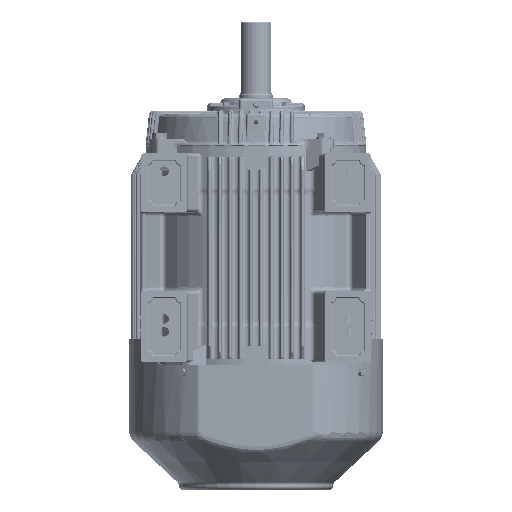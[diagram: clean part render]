
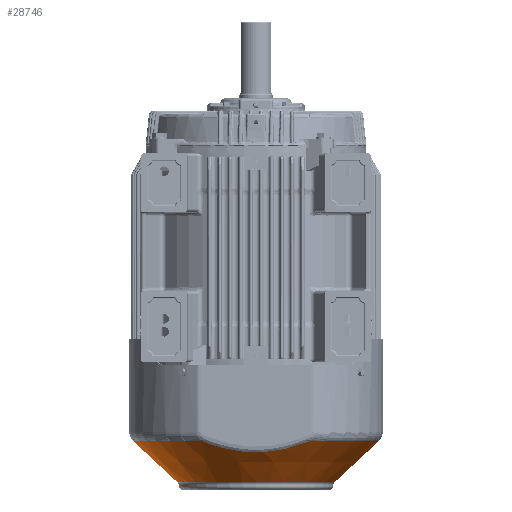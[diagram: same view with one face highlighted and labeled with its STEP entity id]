
A CAD part, front view. The second image highlights one B-rep face of the part: STEP entity #28746.
In plain terms, the highlighted conical face has half-angle 47 degrees and reference radius 152.544 mm.
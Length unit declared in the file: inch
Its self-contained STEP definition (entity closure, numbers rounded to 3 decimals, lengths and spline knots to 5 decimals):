
#14789 = EDGE_CURVE ( 'NONE', #213880, #133792, #323694, .T. ) ;
#15602 = CARTESIAN_POINT ( 'NONE',  ( -9.35236, 0., -13.97297 ) ) ;
#23483 = CARTESIAN_POINT ( 'NONE',  ( -2.78153, -8.41408, -14.43568 ) ) ;
#28073 = CARTESIAN_POINT ( 'NONE',  ( -4.12617, -8.39293, -13.97297 ) ) ;
#28746 = ADVANCED_FACE ( 'NONE', ( #112894 ), #347095, .T. ) ;
#31069 = EDGE_LOOP ( 'NONE', ( #392586, #205018, #194401, #93625, #36554, #290481 ) ) ;
#36554 = ORIENTED_EDGE ( 'NONE', *, *, #429416, .T. ) ;
#40339 = AXIS2_PLACEMENT_3D ( 'NONE', #360888, #320874, #398565 ) ;
#45362 = AXIS2_PLACEMENT_3D ( 'NONE', #403013, #75760, #219370 ) ;
#46822 = CARTESIAN_POINT ( 'NONE',  ( 0., 0., -17.09381 ) ) ;
#50313 = VERTEX_POINT ( 'NONE', #305434 ) ;
#55130 = VERTEX_POINT ( 'NONE', #15602 ) ;
#61177 = CARTESIAN_POINT ( 'NONE',  ( -1.75247, -8.42608, -14.67467 ) ) ;
#62615 = CARTESIAN_POINT ( 'NONE',  ( 4.12617, -8.39293, -13.97297 ) ) ;
#75760 = DIRECTION ( 'NONE',  ( 0., 0., 1. ) ) ;
#81883 = B_SPLINE_CURVE_WITH_KNOTS ( 'NONE', 3,
 ( #171728, #167124, #129488, #310785, #237784, #423793, #131767, #454515, #101095, #202406, #138686, #383811, #247044, #164768, #61177, #346115, #23483, #98812, #348435, #204747, #456830, #94154, #416806, #28073 ),
 .UNSPECIFIED., .F., .F.,
 ( 4, 2, 2, 2, 2, 2, 2, 2, 2, 2, 2, 4 ),
 ( 0., 0.05348, 0.08022, 0.09358, 0.10027, 0.10695, 0.13369, 0.16043, 0.18717, 0.19385, 0.20054, 0.21391 ),
 .UNSPECIFIED. ) ;
#93625 = ORIENTED_EDGE ( 'NONE', *, *, #14789, .F. ) ;
#94154 = CARTESIAN_POINT ( 'NONE',  ( -3.79399, -8.39857, -14.10157 ) ) ;
#98812 = CARTESIAN_POINT ( 'NONE',  ( -3.20483, -8.40785, -14.30381 ) ) ;
#101095 = CARTESIAN_POINT ( 'NONE',  ( 0.36103, -8.4339, -14.82268 ) ) ;
#112894 = FACE_OUTER_BOUND ( 'NONE', #31069, .T. ) ;
#129488 = CARTESIAN_POINT ( 'NONE',  ( 2.79336, -8.41469, -14.44975 ) ) ;
#131767 = CARTESIAN_POINT ( 'NONE',  ( 0.71596, -8.43289, -14.80383 ) ) ;
#133792 = VERTEX_POINT ( 'NONE', #418516 ) ;
#138419 = VECTOR ( 'NONE', #294844, 39.37008 ) ;
#138686 = CARTESIAN_POINT ( 'NONE',  ( 0.09312, -8.43425, -14.82909 ) ) ;
#151188 = LINE ( 'NONE', #257238, #138419 ) ;
#161913 = CIRCLE ( 'NONE', #304835, 6.00567 ) ;
#164768 = CARTESIAN_POINT ( 'NONE',  ( -1.40566, -8.42908, -14.73199 ) ) ;
#166868 = AXIS2_PLACEMENT_3D ( 'NONE', #340568, #415894, #294177 ) ;
#167124 = CARTESIAN_POINT ( 'NONE',  ( 3.46498, -8.4043, -14.23548 ) ) ;
#171728 = CARTESIAN_POINT ( 'NONE',  ( 4.12617, -8.39293, -13.97297 ) ) ;
#189611 = DIRECTION ( 'NONE',  ( 0.731, 0., 0.682 ) ) ;
#194401 = ORIENTED_EDGE ( 'NONE', *, *, #436140, .T. ) ;
#202406 = CARTESIAN_POINT ( 'NONE',  ( 0.18263, -8.43418, -14.82779 ) ) ;
#204747 = CARTESIAN_POINT ( 'NONE',  ( -3.45805, -8.40396, -14.22018 ) ) ;
#205018 = ORIENTED_EDGE ( 'NONE', *, *, #249398, .T. ) ;
#213880 = VERTEX_POINT ( 'NONE', #62615 ) ;
#214986 = VERTEX_POINT ( 'NONE', #343956 ) ;
#219370 = DIRECTION ( 'NONE',  ( 1., 0., 0. ) ) ;
#237784 = CARTESIAN_POINT ( 'NONE',  ( 1.41804, -8.42899, -14.73019 ) ) ;
#243379 = CIRCLE ( 'NONE', #40339, 9.35236 ) ;
#247044 = CARTESIAN_POINT ( 'NONE',  ( -0.70572, -8.43318, -14.8093 ) ) ;
#249398 = EDGE_CURVE ( 'NONE', #50313, #344681, #161913, .T. ) ;
#257238 = CARTESIAN_POINT ( 'NONE',  ( -6.00567, 0., -17.09381 ) ) ;
#268085 = DIRECTION ( 'NONE',  ( 1., 0., 0. ) ) ;
#290481 = ORIENTED_EDGE ( 'NONE', *, *, #297192, .F. ) ;
#294177 = DIRECTION ( 'NONE',  ( 1., 0., 0. ) ) ;
#294844 = DIRECTION ( 'NONE',  ( -0.731, 0., 0.682 ) ) ;
#297192 = EDGE_CURVE ( 'NONE', #55130, #214986, #243379, .T. ) ;
#299430 = EDGE_CURVE ( 'NONE', #50313, #55130, #151188, .T. ) ;
#304835 = AXIS2_PLACEMENT_3D ( 'NONE', #46822, #308059, #268085 ) ;
#305434 = CARTESIAN_POINT ( 'NONE',  ( -6.00567, 0., -17.09381 ) ) ;
#307201 = LINE ( 'NONE', #375603, #452430 ) ;
#308059 = DIRECTION ( 'NONE',  ( 0., 0., 1. ) ) ;
#310785 = CARTESIAN_POINT ( 'NONE',  ( 1.76455, -8.42596, -14.67244 ) ) ;
#320874 = DIRECTION ( 'NONE',  ( 0., 0., 1. ) ) ;
#323694 = CIRCLE ( 'NONE', #45362, 9.35236 ) ;
#340568 = CARTESIAN_POINT ( 'NONE',  ( 0., 0., -17.09381 ) ) ;
#343956 = CARTESIAN_POINT ( 'NONE',  ( -4.12617, -8.39293, -13.97297 ) ) ;
#344681 = VERTEX_POINT ( 'NONE', #456203 ) ;
#346115 = CARTESIAN_POINT ( 'NONE',  ( -2.4404, -8.41857, -14.52651 ) ) ;
#347095 = CONICAL_SURFACE ( 'NONE', #166868, 6.00567, 0.82 ) ;
#348435 = CARTESIAN_POINT ( 'NONE',  ( -3.28933, -8.40657, -14.27652 ) ) ;
#360888 = CARTESIAN_POINT ( 'NONE',  ( 0., 0., -13.97297 ) ) ;
#375603 = CARTESIAN_POINT ( 'NONE',  ( 6.00567, 0., -17.09381 ) ) ;
#383811 = CARTESIAN_POINT ( 'NONE',  ( -0.35258, -8.43426, -14.82927 ) ) ;
#392586 = ORIENTED_EDGE ( 'NONE', *, *, #299430, .F. ) ;
#398565 = DIRECTION ( 'NONE',  ( 1., 0., 0. ) ) ;
#403013 = CARTESIAN_POINT ( 'NONE',  ( 0., 0., -13.97297 ) ) ;
#415894 = DIRECTION ( 'NONE',  ( 0., 0., 1. ) ) ;
#416806 = CARTESIAN_POINT ( 'NONE',  ( -3.96061, -8.39578, -14.03871 ) ) ;
#418516 = CARTESIAN_POINT ( 'NONE',  ( 9.35236, 0., -13.97297 ) ) ;
#423793 = CARTESIAN_POINT ( 'NONE',  ( 0.89224, -8.4321, -14.7889 ) ) ;
#429416 = EDGE_CURVE ( 'NONE', #213880, #214986, #81883, .T. ) ;
#436140 = EDGE_CURVE ( 'NONE', #344681, #133792, #307201, .T. ) ;
#452430 = VECTOR ( 'NONE', #189611, 39.37008 ) ;
#454515 = CARTESIAN_POINT ( 'NONE',  ( 0.44996, -8.4337, -14.81888 ) ) ;
#456203 = CARTESIAN_POINT ( 'NONE',  ( 6.00567, 0., -17.09381 ) ) ;
#456830 = CARTESIAN_POINT ( 'NONE',  ( -3.54228, -8.40263, -14.19111 ) ) ;
